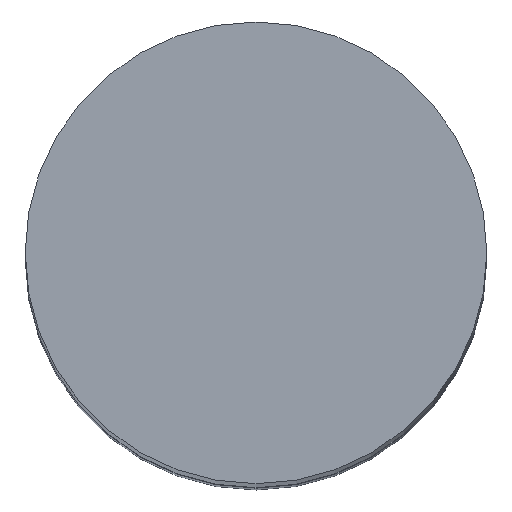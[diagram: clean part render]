
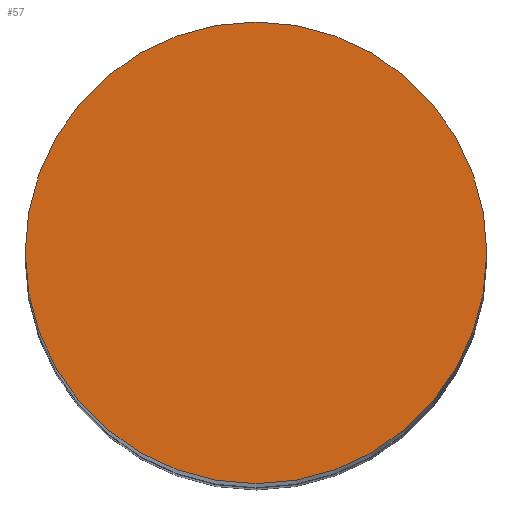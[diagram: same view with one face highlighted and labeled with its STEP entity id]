
A CAD part, top view. The second image highlights one B-rep face of the part: STEP entity #57.
In plain terms, the highlighted planar face has unit normal (0, 0, 1).
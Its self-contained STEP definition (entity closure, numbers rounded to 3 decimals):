
#57=ADVANCED_FACE('',(#110),#111,.T.);
#110=FACE_OUTER_BOUND('',#156,.T.);
#111=PLANE('',#157);
#156=EDGE_LOOP('',(#243,#244));
#157=AXIS2_PLACEMENT_3D('',#245,#246,#247);
#243=ORIENTED_EDGE('',*,*,#288,.T.);
#244=ORIENTED_EDGE('',*,*,#259,.T.);
#245=CARTESIAN_POINT('',(0.0,0.0,0.0));
#246=DIRECTION('',(0.0,0.0,1.0));
#247=DIRECTION('',(1.0,0.0,0.0));
#259=EDGE_CURVE('',#296,#293,#297,.T.);
#288=EDGE_CURVE('',#293,#296,#337,.T.);
#293=VERTEX_POINT('',#342);
#296=VERTEX_POINT('',#346);
#297=CIRCLE('',#347,4.0);
#337=CIRCLE('',#394,4.0);
#342=CARTESIAN_POINT('',(-4.0,0.0,0.0));
#346=CARTESIAN_POINT('',(4.0,0.,0.0));
#347=AXIS2_PLACEMENT_3D('',#399,#400,#401);
#394=AXIS2_PLACEMENT_3D('',#445,#446,#447);
#399=CARTESIAN_POINT('',(0.0,0.0,0.0));
#400=DIRECTION('',(0.0,0.0,1.0));
#401=DIRECTION('',(-1.0,0.0,0.0));
#445=CARTESIAN_POINT('',(0.0,0.0,0.0));
#446=DIRECTION('',(0.0,0.0,1.0));
#447=DIRECTION('',(-1.0,0.0,0.0));
